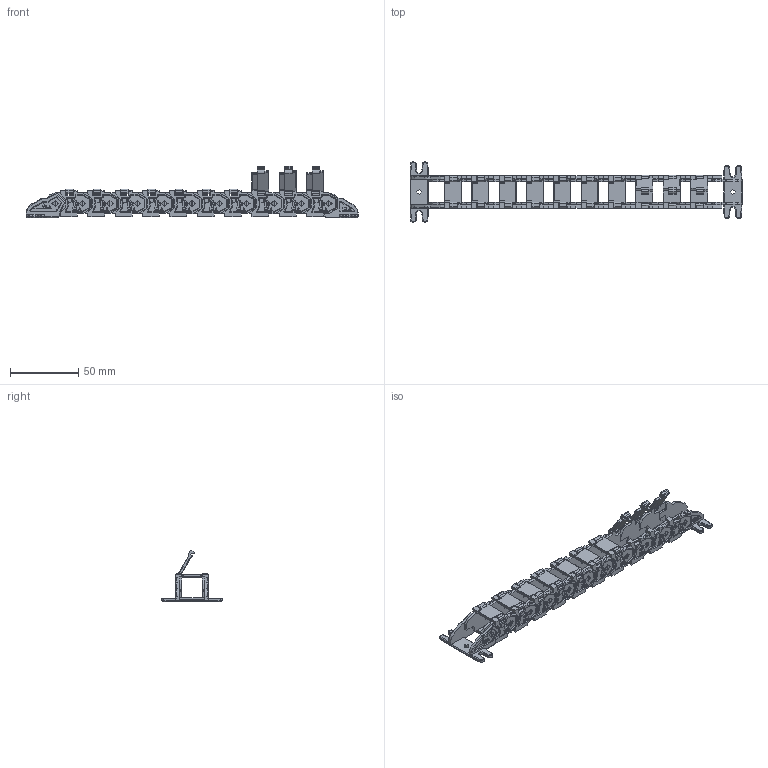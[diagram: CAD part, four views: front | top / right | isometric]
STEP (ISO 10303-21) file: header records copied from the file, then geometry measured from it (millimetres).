
FILE_DESCRIPTION(/* description */ (''),/* implementation_level */ '2;1');
FILE_NAME(/* name */ 'SA4 15 R40',/* time_stamp */ '2015-12-16T13:28:31+02:00',/* author */ (''),/* organization */ (''),/* preprocessor_version */ 'ST-DEVELOPER v9',/* originating_system */ 'EDS PLM SOLUTIONS - UNIGRAPHICS NX 2.0',/* authorisation */ '');
FILE_SCHEMA (('CONFIG_CONTROL_DESIGN'));
Products named in the file (1): user9494g7qb
Bounding box: 242.7 x 43.9 x 37.54 mm (x, y, z)
Topology: 22 solids, 24 shells, 4049 faces, 10718 edges, 6815 vertices
Faces by surface type: plane 2252, cylinder 1027, extrusion 282, sphere 214, torus 170, bspline 58, cone 46
Full cylindrical faces by diameter (mm): 0.355 x40, 0.356 x4, 1.46 x20, 3.5 x2, 4.45 x22
Entity records: 134872 total; most frequent: CARTESIAN_POINT 35876, ORIENTED_EDGE 20616, DIRECTION 19916, EDGE_CURVE 10308, VECTOR 7202, LINE 6920, VERTEX_POINT 6713, AXIS2_PLACEMENT_3D 6357
